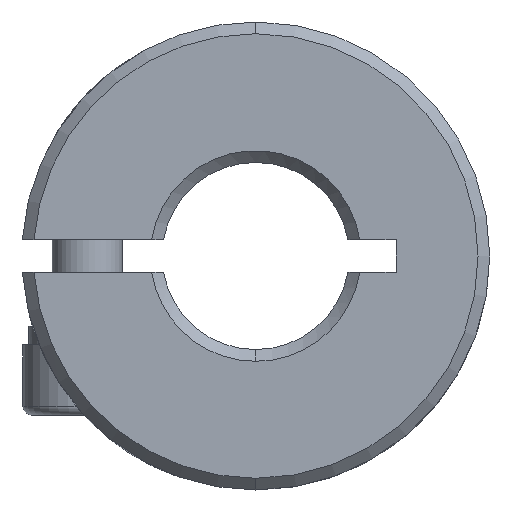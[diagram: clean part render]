
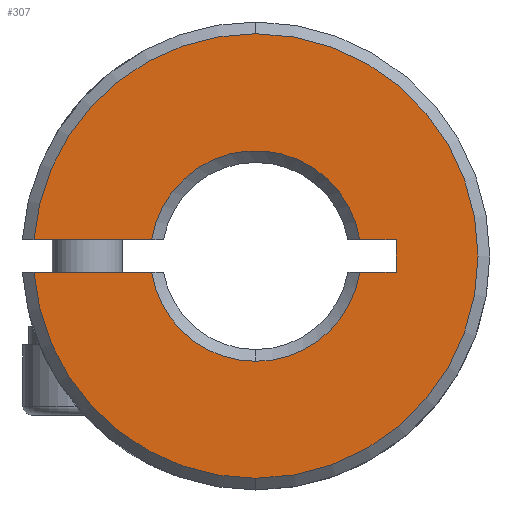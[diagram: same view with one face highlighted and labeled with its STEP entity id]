
A CAD part, front view. The second image highlights one B-rep face of the part: STEP entity #307.
In plain terms, the highlighted planar face has unit normal (0, -1, 0).
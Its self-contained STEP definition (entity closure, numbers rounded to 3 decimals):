
#73 = VECTOR ( 'NONE', #2525, 1000. ) ;
#94 = DIRECTION ( 'NONE',  ( 0., 0., 1. ) ) ;
#99 = FACE_OUTER_BOUND ( 'NONE', #2682, .T. ) ;
#152 = ORIENTED_EDGE ( 'NONE', *, *, #2541, .F. ) ;
#202 = DIRECTION ( 'NONE',  ( 0., 0., 1. ) ) ;
#258 = VERTEX_POINT ( 'NONE', #2386 ) ;
#261 = CARTESIAN_POINT ( 'NONE',  ( 6., 0.25, -0.7 ) ) ;
#290 = CARTESIAN_POINT ( 'NONE',  ( 6., 0.25, 0.7 ) ) ;
#307 = ADVANCED_FACE ( 'NONE', ( #99 ), #1035, .F. ) ;
#397 = CARTESIAN_POINT ( 'NONE',  ( 6., 0.25, 0.7 ) ) ;
#526 = EDGE_CURVE ( 'NONE', #886, #1078, #3116, .T. ) ;
#610 = CIRCLE ( 'NONE', #1524, 4.5 ) ;
#632 = DIRECTION ( 'NONE',  ( 0., 1., 0. ) ) ;
#636 = ORIENTED_EDGE ( 'NONE', *, *, #2728, .F. ) ;
#695 = AXIS2_PLACEMENT_3D ( 'NONE', #948, #2020, #2321 ) ;
#704 = EDGE_CURVE ( 'NONE', #1955, #2097, #1012, .T. ) ;
#721 = VERTEX_POINT ( 'NONE', #3247 ) ;
#770 = DIRECTION ( 'NONE',  ( 0., -1., 0. ) ) ;
#800 = VERTEX_POINT ( 'NONE', #2521 ) ;
#838 = ORIENTED_EDGE ( 'NONE', *, *, #526, .F. ) ;
#883 = CARTESIAN_POINT ( 'NONE',  ( 0., 0.25, 0. ) ) ;
#886 = VERTEX_POINT ( 'NONE', #3413 ) ;
#888 = VERTEX_POINT ( 'NONE', #977 ) ;
#897 = AXIS2_PLACEMENT_3D ( 'NONE', #2110, #770, #1324 ) ;
#930 = CARTESIAN_POINT ( 'NONE',  ( -9.474, 0.25, -0.7 ) ) ;
#938 = CARTESIAN_POINT ( 'NONE',  ( 0., 0.25, 9.5 ) ) ;
#948 = CARTESIAN_POINT ( 'NONE',  ( 0., 0.25, 0. ) ) ;
#958 = DIRECTION ( 'NONE',  ( 0., 0., 1. ) ) ;
#977 = CARTESIAN_POINT ( 'NONE',  ( -4.445, 0.25, 0.7 ) ) ;
#1012 = CIRCLE ( 'NONE', #2481, 9.5 ) ;
#1032 = ORIENTED_EDGE ( 'NONE', *, *, #704, .T. ) ;
#1035 = PLANE ( 'NONE',  #3348 ) ;
#1073 = ORIENTED_EDGE ( 'NONE', *, *, #2982, .F. ) ;
#1078 = VERTEX_POINT ( 'NONE', #261 ) ;
#1121 = LINE ( 'NONE', #2294, #3351 ) ;
#1158 = LINE ( 'NONE', #2551, #3443 ) ;
#1195 = VERTEX_POINT ( 'NONE', #938 ) ;
#1233 = CARTESIAN_POINT ( 'NONE',  ( 0., 0.25, 0. ) ) ;
#1241 = EDGE_CURVE ( 'NONE', #888, #721, #2019, .T. ) ;
#1285 = DIRECTION ( 'NONE',  ( 0., 0., 1. ) ) ;
#1303 = CARTESIAN_POINT ( 'NONE',  ( -50., 0.25, 12. ) ) ;
#1324 = DIRECTION ( 'NONE',  ( 0., 0., 1. ) ) ;
#1337 = EDGE_CURVE ( 'NONE', #1195, #1989, #2494, .T. ) ;
#1342 = CIRCLE ( 'NONE', #897, 9.5 ) ;
#1351 = EDGE_CURVE ( 'NONE', #2097, #1195, #1342, .T. ) ;
#1448 = DIRECTION ( 'NONE',  ( 1., 0., 0. ) ) ;
#1524 = AXIS2_PLACEMENT_3D ( 'NONE', #1233, #2037, #2889 ) ;
#1527 = ORIENTED_EDGE ( 'NONE', *, *, #1241, .T. ) ;
#1538 = EDGE_CURVE ( 'NONE', #1603, #721, #1671, .T. ) ;
#1601 = CARTESIAN_POINT ( 'NONE',  ( 6., 0.25, -0.7 ) ) ;
#1603 = VERTEX_POINT ( 'NONE', #397 ) ;
#1671 = LINE ( 'NONE', #290, #73 ) ;
#1766 = AXIS2_PLACEMENT_3D ( 'NONE', #883, #632, #94 ) ;
#1796 = DIRECTION ( 'NONE',  ( 0., 0., 1. ) ) ;
#1825 = DIRECTION ( 'NONE',  ( 0., -1., 0. ) ) ;
#1922 = DIRECTION ( 'NONE',  ( 1., 0., 0. ) ) ;
#1955 = VERTEX_POINT ( 'NONE', #930 ) ;
#1980 = LINE ( 'NONE', #3335, #2979 ) ;
#1989 = VERTEX_POINT ( 'NONE', #3101 ) ;
#2009 = DIRECTION ( 'NONE',  ( -1., 0., 0. ) ) ;
#2019 = CIRCLE ( 'NONE', #1766, 4.5 ) ;
#2020 = DIRECTION ( 'NONE',  ( 0., 1., 0. ) ) ;
#2030 = CARTESIAN_POINT ( 'NONE',  ( 0., 0.25, 0. ) ) ;
#2037 = DIRECTION ( 'NONE',  ( 0., 1., 0. ) ) ;
#2070 = CIRCLE ( 'NONE', #695, 4.5 ) ;
#2097 = VERTEX_POINT ( 'NONE', #2356 ) ;
#2110 = CARTESIAN_POINT ( 'NONE',  ( 0., 0.25, 0. ) ) ;
#2291 = ORIENTED_EDGE ( 'NONE', *, *, #1337, .T. ) ;
#2294 = CARTESIAN_POINT ( 'NONE',  ( 6., 0.25, 0.7 ) ) ;
#2321 = DIRECTION ( 'NONE',  ( 0., 0., 1. ) ) ;
#2356 = CARTESIAN_POINT ( 'NONE',  ( 0., 0.25, -9.5 ) ) ;
#2386 = CARTESIAN_POINT ( 'NONE',  ( -4.445, 0.25, -0.7 ) ) ;
#2394 = CARTESIAN_POINT ( 'NONE',  ( 0., 0.25, 0. ) ) ;
#2398 = ORIENTED_EDGE ( 'NONE', *, *, #3127, .T. ) ;
#2481 = AXIS2_PLACEMENT_3D ( 'NONE', #2394, #1825, #1285 ) ;
#2494 = CIRCLE ( 'NONE', #3045, 9.5 ) ;
#2521 = CARTESIAN_POINT ( 'NONE',  ( 0., 0.25, -4.5 ) ) ;
#2525 = DIRECTION ( 'NONE',  ( -1., 0., 0. ) ) ;
#2541 = EDGE_CURVE ( 'NONE', #888, #1989, #1158, .T. ) ;
#2551 = CARTESIAN_POINT ( 'NONE',  ( 6., 0.25, 0.7 ) ) ;
#2682 = EDGE_LOOP ( 'NONE', ( #1073, #1032, #2692, #2291, #152, #1527, #2709, #636, #838, #2398, #2723 ) ) ;
#2692 = ORIENTED_EDGE ( 'NONE', *, *, #1351, .T. ) ;
#2706 = EDGE_CURVE ( 'NONE', #800, #258, #2070, .T. ) ;
#2709 = ORIENTED_EDGE ( 'NONE', *, *, #1538, .F. ) ;
#2723 = ORIENTED_EDGE ( 'NONE', *, *, #2706, .T. ) ;
#2728 = EDGE_CURVE ( 'NONE', #1078, #1603, #1121, .T. ) ;
#2889 = DIRECTION ( 'NONE',  ( 0., 0., 1. ) ) ;
#2979 = VECTOR ( 'NONE', #1922, 1000. ) ;
#2982 = EDGE_CURVE ( 'NONE', #1955, #258, #1980, .T. ) ;
#3045 = AXIS2_PLACEMENT_3D ( 'NONE', #2030, #3172, #1796 ) ;
#3101 = CARTESIAN_POINT ( 'NONE',  ( -9.474, 0.25, 0.7 ) ) ;
#3116 = LINE ( 'NONE', #1601, #3430 ) ;
#3127 = EDGE_CURVE ( 'NONE', #886, #800, #610, .T. ) ;
#3172 = DIRECTION ( 'NONE',  ( 0., -1., 0. ) ) ;
#3240 = DIRECTION ( 'NONE',  ( 0., 1., 0. ) ) ;
#3247 = CARTESIAN_POINT ( 'NONE',  ( 4.445, 0.25, 0.7 ) ) ;
#3335 = CARTESIAN_POINT ( 'NONE',  ( 6., 0.25, -0.7 ) ) ;
#3348 = AXIS2_PLACEMENT_3D ( 'NONE', #1303, #3240, #202 ) ;
#3351 = VECTOR ( 'NONE', #958, 1000. ) ;
#3413 = CARTESIAN_POINT ( 'NONE',  ( 4.445, 0.25, -0.7 ) ) ;
#3430 = VECTOR ( 'NONE', #1448, 1000. ) ;
#3443 = VECTOR ( 'NONE', #2009, 1000. ) ;
